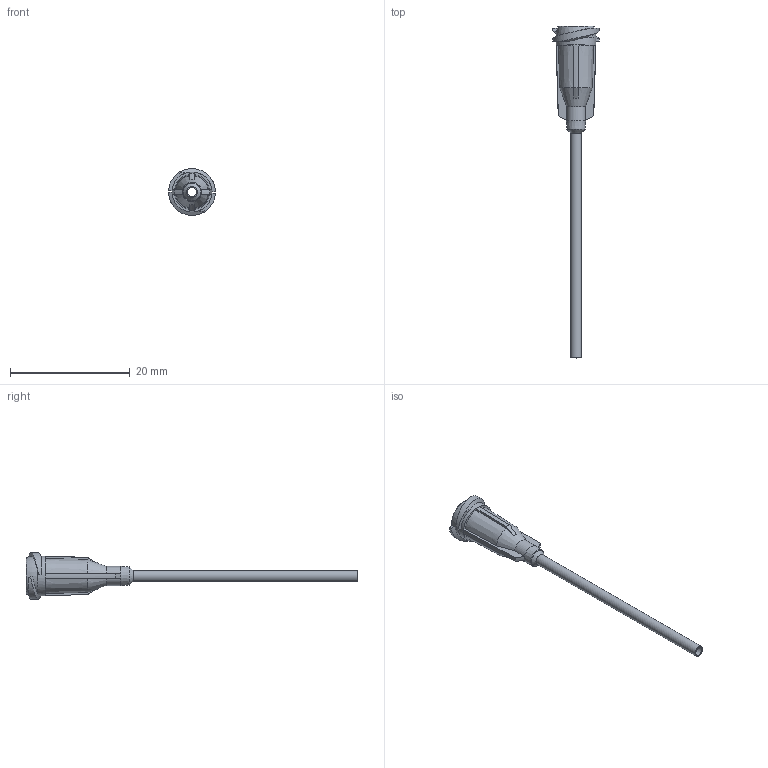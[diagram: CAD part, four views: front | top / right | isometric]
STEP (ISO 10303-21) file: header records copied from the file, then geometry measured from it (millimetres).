
FILE_DESCRIPTION (( 'STEP AP214' ), '1' );
FILE_NAME ('DAV TE 15 15.STEP', '2023-09-29T06:08:22', ( '' ), ( '' ), 'SwSTEP 2.0', 'SolidWorks 2022', '' );
FILE_SCHEMA (( 'AUTOMOTIVE_DESIGN' ));
Length unit declared in the file: millimetre
Products named in the file (1): DAV TE 15 15
Bounding box: 7.82 x 55.47 x 7.82 mm (x, y, z)
Volume: 283.6 mm3; surface area: 946.3 mm2
Topology: 1 solids, 1 shells, 63 faces, 161 edges, 101 vertices
Faces by surface type: plane 23, cone 16, bspline 10, cylinder 7, torus 7
Full cylindrical faces by diameter (mm): 1.51 x1, 1.83 x1, 2.87 x1, 6.655 x1
Entity records: 2066 total; most frequent: CARTESIAN_POINT 796, ORIENTED_EDGE 262, DIRECTION 228, EDGE_CURVE 131, AXIS2_PLACEMENT_3D 99, VERTEX_POINT 89, EDGE_LOOP 80, FACE_OUTER_BOUND 71
